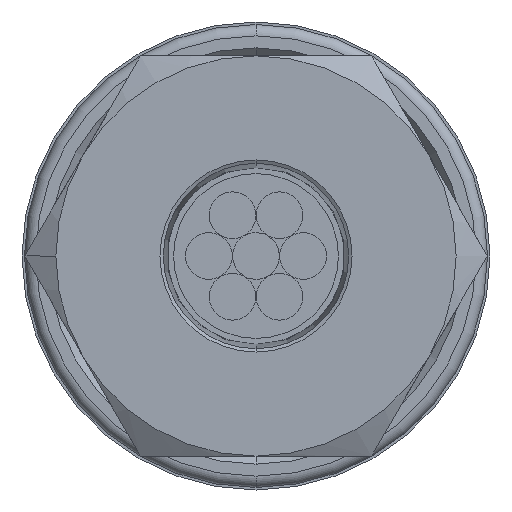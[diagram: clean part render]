
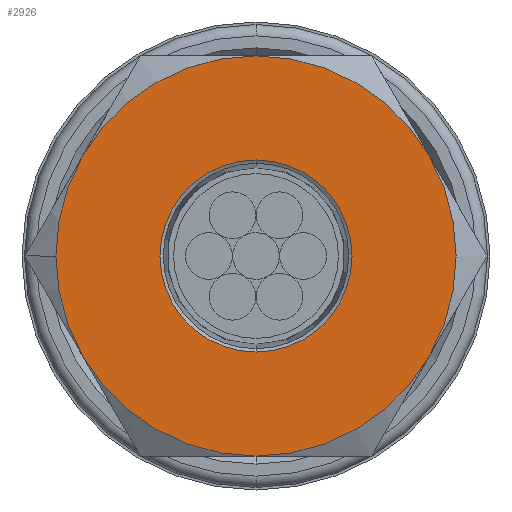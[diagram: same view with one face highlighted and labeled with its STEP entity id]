
A CAD part, front view. The second image highlights one B-rep face of the part: STEP entity #2926.
In plain terms, the highlighted planar face has unit normal (0, -1, 0).
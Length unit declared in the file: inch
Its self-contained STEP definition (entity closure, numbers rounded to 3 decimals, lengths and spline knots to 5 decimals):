
#64 = AXIS2_PLACEMENT_3D ( 'NONE', #3911, #3000, #3571 ) ;
#139 = VERTEX_POINT ( 'NONE', #482 ) ;
#194 = AXIS2_PLACEMENT_3D ( 'NONE', #1282, #2565, #3845 ) ;
#260 = CARTESIAN_POINT ( 'NONE',  ( -0.46008, -0.603, -0.26562 ) ) ;
#281 = VERTEX_POINT ( 'NONE', #2920 ) ;
#339 = CARTESIAN_POINT ( 'NONE',  ( -0.46008, -0.603, 0.26563 ) ) ;
#378 = CARTESIAN_POINT ( 'NONE',  ( 0., -0.603, 0.255 ) ) ;
#400 = DIRECTION ( 'NONE',  ( 0., 0., 1. ) ) ;
#423 = CARTESIAN_POINT ( 'NONE',  ( 0., -0.603, 0. ) ) ;
#482 = CARTESIAN_POINT ( 'NONE',  ( 0., -0.603, 0.53125 ) ) ;
#559 = DIRECTION ( 'NONE',  ( -1., 0., 0. ) ) ;
#568 = DIRECTION ( 'NONE',  ( 0., 0., 1. ) ) ;
#579 = FACE_OUTER_BOUND ( 'NONE', #1173, .T. ) ;
#598 = CIRCLE ( 'NONE', #194, 0.53125 ) ;
#601 = DIRECTION ( 'NONE',  ( 0., 0., 1. ) ) ;
#662 = AXIS2_PLACEMENT_3D ( 'NONE', #3287, #2971, #400 ) ;
#694 = DIRECTION ( 'NONE',  ( 0., -1., 0. ) ) ;
#703 = CARTESIAN_POINT ( 'NONE',  ( 0., -0.603, 0. ) ) ;
#736 = AXIS2_PLACEMENT_3D ( 'NONE', #1454, #3753, #559 ) ;
#744 = ORIENTED_EDGE ( 'NONE', *, *, #2970, .F. ) ;
#755 = CIRCLE ( 'NONE', #2973, 0.53125 ) ;
#818 = EDGE_CURVE ( 'NONE', #2143, #3214, #3242, .T. ) ;
#998 = DIRECTION ( 'NONE',  ( 0., 0., 1. ) ) ;
#1058 = EDGE_CURVE ( 'NONE', #2958, #281, #755, .T. ) ;
#1173 = EDGE_LOOP ( 'NONE', ( #3203, #3398, #3946, #1174, #2210, #744, #2766 ) ) ;
#1174 = ORIENTED_EDGE ( 'NONE', *, *, #4069, .F. ) ;
#1185 = VERTEX_POINT ( 'NONE', #339 ) ;
#1205 = CIRCLE ( 'NONE', #64, 0.53125 ) ;
#1233 = DIRECTION ( 'NONE',  ( 0., 0., 1. ) ) ;
#1282 = CARTESIAN_POINT ( 'NONE',  ( 0., -0.603, 0. ) ) ;
#1303 = PLANE ( 'NONE',  #3157 ) ;
#1327 = DIRECTION ( 'NONE',  ( 0., 1., 0. ) ) ;
#1337 = CIRCLE ( 'NONE', #1550, 0.255 ) ;
#1361 = AXIS2_PLACEMENT_3D ( 'NONE', #703, #2055, #998 ) ;
#1409 = CIRCLE ( 'NONE', #1538, 0.53125 ) ;
#1454 = CARTESIAN_POINT ( 'NONE',  ( 0., -0.603, 0. ) ) ;
#1531 = DIRECTION ( 'NONE',  ( 0., -1., 0. ) ) ;
#1538 = AXIS2_PLACEMENT_3D ( 'NONE', #3223, #1327, #2906 ) ;
#1549 = VERTEX_POINT ( 'NONE', #4128 ) ;
#1550 = AXIS2_PLACEMENT_3D ( 'NONE', #423, #694, #3595 ) ;
#1574 = VERTEX_POINT ( 'NONE', #378 ) ;
#1810 = CIRCLE ( 'NONE', #662, 0.53125 ) ;
#1818 = EDGE_CURVE ( 'NONE', #1185, #139, #1891, .T. ) ;
#1889 = CARTESIAN_POINT ( 'NONE',  ( 0., -0.603, -0.53125 ) ) ;
#1891 = CIRCLE ( 'NONE', #736, 0.53125 ) ;
#1939 = CARTESIAN_POINT ( 'NONE',  ( 0.46008, -0.603, 0.26563 ) ) ;
#2055 = DIRECTION ( 'NONE',  ( 0., 1., 0. ) ) ;
#2143 = VERTEX_POINT ( 'NONE', #1889 ) ;
#2210 = ORIENTED_EDGE ( 'NONE', *, *, #818, .F. ) ;
#2483 = AXIS2_PLACEMENT_3D ( 'NONE', #4085, #4146, #568 ) ;
#2522 = FACE_BOUND ( 'NONE', #2854, .T. ) ;
#2565 = DIRECTION ( 'NONE',  ( 0., 1., 0. ) ) ;
#2569 = EDGE_CURVE ( 'NONE', #1574, #3126, #3085, .T. ) ;
#2658 = EDGE_CURVE ( 'NONE', #1549, #1185, #1409, .T. ) ;
#2766 = ORIENTED_EDGE ( 'NONE', *, *, #1058, .F. ) ;
#2782 = EDGE_CURVE ( 'NONE', #139, #2958, #1810, .T. ) ;
#2854 = EDGE_LOOP ( 'NONE', ( #3798, #3593 ) ) ;
#2906 = DIRECTION ( 'NONE',  ( 0., 0., 1. ) ) ;
#2920 = CARTESIAN_POINT ( 'NONE',  ( 0.46008, -0.603, -0.26562 ) ) ;
#2926 = ADVANCED_FACE ( 'NONE', ( #2522, #579 ), #1303, .T. ) ;
#2958 = VERTEX_POINT ( 'NONE', #1939 ) ;
#2970 = EDGE_CURVE ( 'NONE', #281, #2143, #598, .T. ) ;
#2971 = DIRECTION ( 'NONE',  ( 0., 1., 0. ) ) ;
#2973 = AXIS2_PLACEMENT_3D ( 'NONE', #4113, #3122, #1233 ) ;
#3000 = DIRECTION ( 'NONE',  ( 0., 1., 0. ) ) ;
#3085 = CIRCLE ( 'NONE', #2483, 0.255 ) ;
#3122 = DIRECTION ( 'NONE',  ( 0., 1., 0. ) ) ;
#3126 = VERTEX_POINT ( 'NONE', #3690 ) ;
#3157 = AXIS2_PLACEMENT_3D ( 'NONE', #3485, #1531, #601 ) ;
#3203 = ORIENTED_EDGE ( 'NONE', *, *, #2782, .F. ) ;
#3214 = VERTEX_POINT ( 'NONE', #260 ) ;
#3223 = CARTESIAN_POINT ( 'NONE',  ( 0., -0.603, 0. ) ) ;
#3242 = CIRCLE ( 'NONE', #1361, 0.53125 ) ;
#3287 = CARTESIAN_POINT ( 'NONE',  ( 0., -0.603, 0. ) ) ;
#3398 = ORIENTED_EDGE ( 'NONE', *, *, #1818, .F. ) ;
#3485 = CARTESIAN_POINT ( 'NONE',  ( -0.61343, -0.603, 0. ) ) ;
#3571 = DIRECTION ( 'NONE',  ( 0., 0., 1. ) ) ;
#3593 = ORIENTED_EDGE ( 'NONE', *, *, #3671, .F. ) ;
#3595 = DIRECTION ( 'NONE',  ( 0., 0., 1. ) ) ;
#3671 = EDGE_CURVE ( 'NONE', #3126, #1574, #1337, .T. ) ;
#3690 = CARTESIAN_POINT ( 'NONE',  ( 0., -0.603, -0.255 ) ) ;
#3753 = DIRECTION ( 'NONE',  ( 0., 1., 0. ) ) ;
#3798 = ORIENTED_EDGE ( 'NONE', *, *, #2569, .F. ) ;
#3845 = DIRECTION ( 'NONE',  ( 0., 0., 1. ) ) ;
#3911 = CARTESIAN_POINT ( 'NONE',  ( 0., -0.603, 0. ) ) ;
#3946 = ORIENTED_EDGE ( 'NONE', *, *, #2658, .F. ) ;
#4069 = EDGE_CURVE ( 'NONE', #3214, #1549, #1205, .T. ) ;
#4085 = CARTESIAN_POINT ( 'NONE',  ( 0., -0.603, 0. ) ) ;
#4113 = CARTESIAN_POINT ( 'NONE',  ( 0., -0.603, 0. ) ) ;
#4128 = CARTESIAN_POINT ( 'NONE',  ( -0.53125, -0.603, 0. ) ) ;
#4146 = DIRECTION ( 'NONE',  ( 0., -1., 0. ) ) ;
